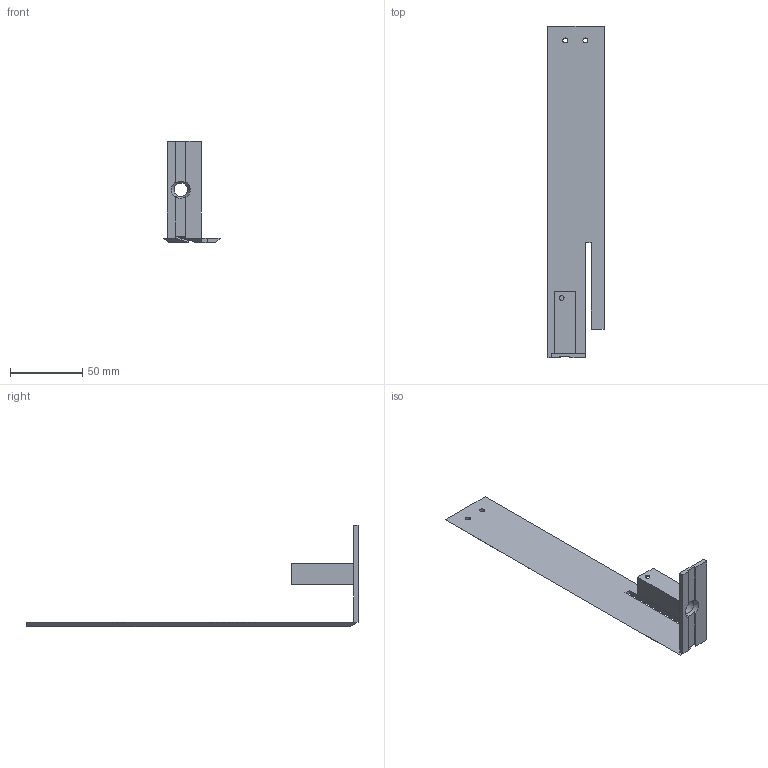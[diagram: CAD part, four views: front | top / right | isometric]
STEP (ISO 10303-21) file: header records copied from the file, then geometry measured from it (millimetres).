
FILE_DESCRIPTION(/* description */ ('STEP AP242 Edition 2','CAx-IF Rec.Pracs.---Representation and Presentation of Product Manufacturing Information (PMI)---4.0---2014-10-13','CAx-IF Rec.Pracs.---3D Tessellated Geometry---0.4---2014-09-14','2;1','CAx-IF Rec.Pracs.---User Defined Attributes---1.5---2016-08-15'),/* implementation_level */ '2;1');
FILE_NAME(/* name */ 'Arm Parts - XWall',/* time_stamp */ '2026-04-22T00:04:14Z',/* author */ (''),/* organization */ (''),/* preprocessor_version */ 'ST-DEVELOPER v20',/* originating_system */ 'ONSHAPE BY PTC INC, 1.213',/* authorisation */ ' ');
FILE_SCHEMA (('AP242_MANAGED_MODEL_BASED_3D_ENGINEERING_MIM_LF { 1 0 10303 442 3 1 4 }'));
Length unit declared in the file: metre
Products named in the file (1): XWall
Bounding box: 39 x 230 x 70 mm (x, y, z)
Volume: 28581.1 mm3; surface area: 26915.7 mm2
Topology: 1 solids, 1 shells, 63 faces, 167 edges, 107 vertices
Faces by surface type: plane 57, cylinder 5, cone 1
Full cylindrical faces by diameter (mm): 3.4 x4, 13 x1
Entity records: 1919 total; most frequent: CARTESIAN_POINT 362, ORIENTED_EDGE 316, DIRECTION 293, EDGE_CURVE 158, LINE 139, VECTOR 139, VERTEX_POINT 104, EDGE_LOOP 80
